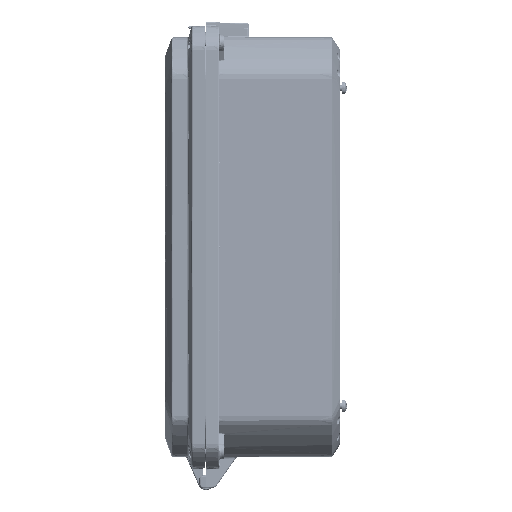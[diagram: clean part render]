
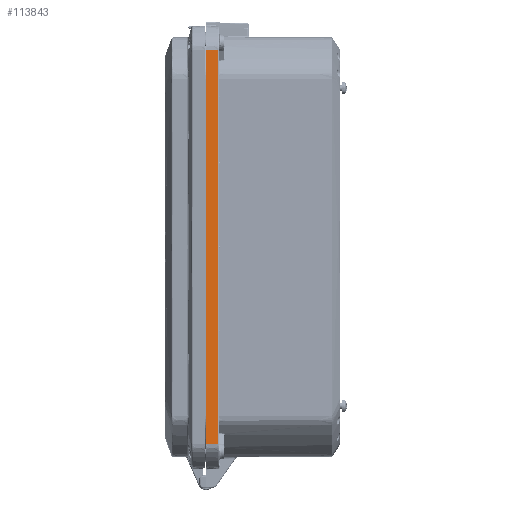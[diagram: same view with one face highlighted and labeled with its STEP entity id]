
A CAD part, left-side view. The second image highlights one B-rep face of the part: STEP entity #113843.
In plain terms, the highlighted planar face has unit normal (-0.999, -0.035, 0).
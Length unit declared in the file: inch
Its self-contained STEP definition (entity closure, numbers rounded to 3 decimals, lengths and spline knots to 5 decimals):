
#19729 = DIRECTION ( 'NONE',  ( 0.035, -0.999, 0. ) ) ;
#21097 = FACE_OUTER_BOUND ( 'NONE', #227839, .T. ) ;
#30426 = ORIENTED_EDGE ( 'NONE', *, *, #218253, .F. ) ;
#30704 = LINE ( 'NONE', #93437, #77794 ) ;
#35040 = CARTESIAN_POINT ( 'NONE',  ( -7.62, 0., 5.89046 ) ) ;
#35432 = VECTOR ( 'NONE', #247243, 39.37008 ) ;
#51979 = CARTESIAN_POINT ( 'NONE',  ( -7.62, 0., 5.89046 ) ) ;
#77794 = VECTOR ( 'NONE', #111633, 39.37008 ) ;
#93437 = CARTESIAN_POINT ( 'NONE',  ( -7.62, 0., -5.89046 ) ) ;
#101189 = CARTESIAN_POINT ( 'NONE',  ( -7.60772, -0.35174, -5.89046 ) ) ;
#106607 = LINE ( 'NONE', #169360, #262983 ) ;
#111633 = DIRECTION ( 'NONE',  ( 0.035, -0.999, 0. ) ) ;
#113843 = ADVANCED_FACE ( 'NONE', ( #21097 ), #274878, .T. ) ;
#120393 = ORIENTED_EDGE ( 'NONE', *, *, #128197, .T. ) ;
#120933 = CARTESIAN_POINT ( 'NONE',  ( -7.60772, -0.35174, 5.89046 ) ) ;
#121710 = LINE ( 'NONE', #223554, #35432 ) ;
#128197 = EDGE_CURVE ( 'NONE', #189631, #253149, #30704, .T. ) ;
#129179 = ORIENTED_EDGE ( 'NONE', *, *, #269927, .T. ) ;
#149343 = CARTESIAN_POINT ( 'NONE',  ( -7.62, 0., 6.3 ) ) ;
#153301 = CARTESIAN_POINT ( 'NONE',  ( -7.62, 0., -5.89046 ) ) ;
#164521 = ORIENTED_EDGE ( 'NONE', *, *, #177877, .F. ) ;
#169360 = CARTESIAN_POINT ( 'NONE',  ( -7.62, 0., 6.3 ) ) ;
#177877 = EDGE_CURVE ( 'NONE', #213408, #191162, #270672, .T. ) ;
#189631 = VERTEX_POINT ( 'NONE', #153301 ) ;
#191162 = VERTEX_POINT ( 'NONE', #120933 ) ;
#210714 = DIRECTION ( 'NONE',  ( -0.999, -0.035, 0. ) ) ;
#213233 = AXIS2_PLACEMENT_3D ( 'NONE', #149343, #210714, #19729 ) ;
#213408 = VERTEX_POINT ( 'NONE', #51979 ) ;
#218253 = EDGE_CURVE ( 'NONE', #189631, #213408, #106607, .T. ) ;
#223554 = CARTESIAN_POINT ( 'NONE',  ( -7.60772, -0.35174, 5.89046 ) ) ;
#227839 = EDGE_LOOP ( 'NONE', ( #129179, #164521, #30426, #120393 ) ) ;
#232090 = DIRECTION ( 'NONE',  ( 0., 0., 1. ) ) ;
#247007 = DIRECTION ( 'NONE',  ( 0.035, -0.999, 0. ) ) ;
#247243 = DIRECTION ( 'NONE',  ( 0., 0., 1. ) ) ;
#253149 = VERTEX_POINT ( 'NONE', #101189 ) ;
#262983 = VECTOR ( 'NONE', #232090, 39.37008 ) ;
#263495 = VECTOR ( 'NONE', #247007, 39.37008 ) ;
#269927 = EDGE_CURVE ( 'NONE', #253149, #191162, #121710, .T. ) ;
#270672 = LINE ( 'NONE', #35040, #263495 ) ;
#274878 = PLANE ( 'NONE',  #213233 ) ;
